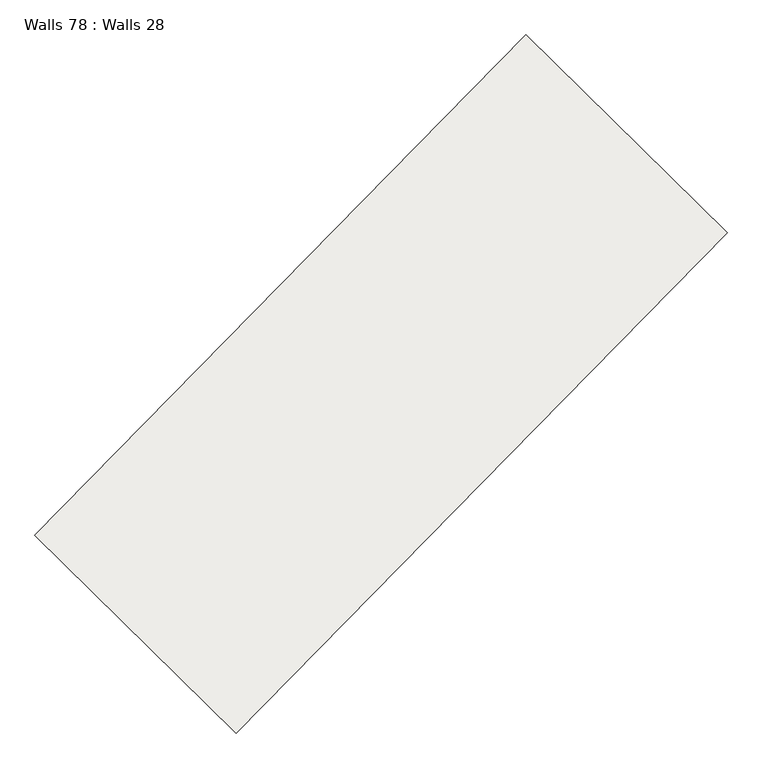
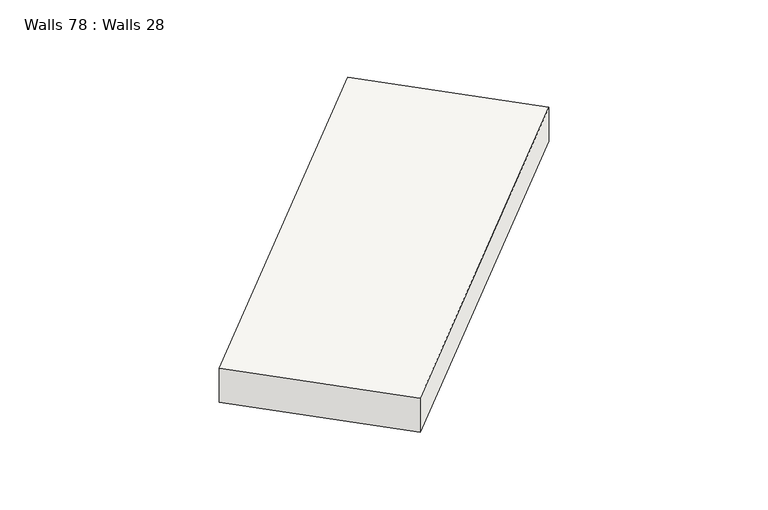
"""IFC4 building model written with IfcOpenShell, lengths in millimetres: slab geometry, Walls 78 : Walls 28."""

from ifc_helpers import new_model, si_unit, frame, origin, place, context, project, spatial, polyline, outline, extrude, source, transform, mapped, element, save


def walls_78_walls_28_4c92f4b7(model_context):
    return source(origin(), model_context, "Body", "SweptSolid", [
        extrude(outline(polyline([(-350.0, 0.0), (350.0, 0.0), (260.0, -8700.0000004), (-440.0, -8700.0000004), (-350.0, 0.0)])), frame((-213299.8553515, -376554.9833099, 635350.0), z_axis=(-0.7136987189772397, 0.7004528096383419, 0.0), x_axis=(0.0, 0.0, 1.0)), (0.0, 0.0, 1.0), 3500.0),
    ])


if __name__ == "__main__":
    model = new_model("IFC4")
    model_context = context("Model", 3, world=origin())
    ifc_project = project(units=[si_unit("LENGTHUNIT", "METRE", prefix="MILLI")], contexts=[model_context])
    site = spatial("IfcSite", under=ifc_project)
    building = spatial("IfcBuilding", under=site)
    placement = place(None, origin())
    walls_78_walls_28_shape = walls_78_walls_28_4c92f4b7(model_context)
    element("IfcSlab", 1, ObjectType="Walls 78 : Walls 28", at=placement, inside=building, context=model_context, shape_type="MappedRepresentation", body=[
        mapped(walls_78_walls_28_shape, transform((0.0, 0.0, 0.0), x_axis=(1.0, 0.0, 0.0), y_axis=(0.0, 1.0, 0.0), z_axis=(0.0, 0.0, 1.0))),
    ])
    save(model, "model.ifc")
